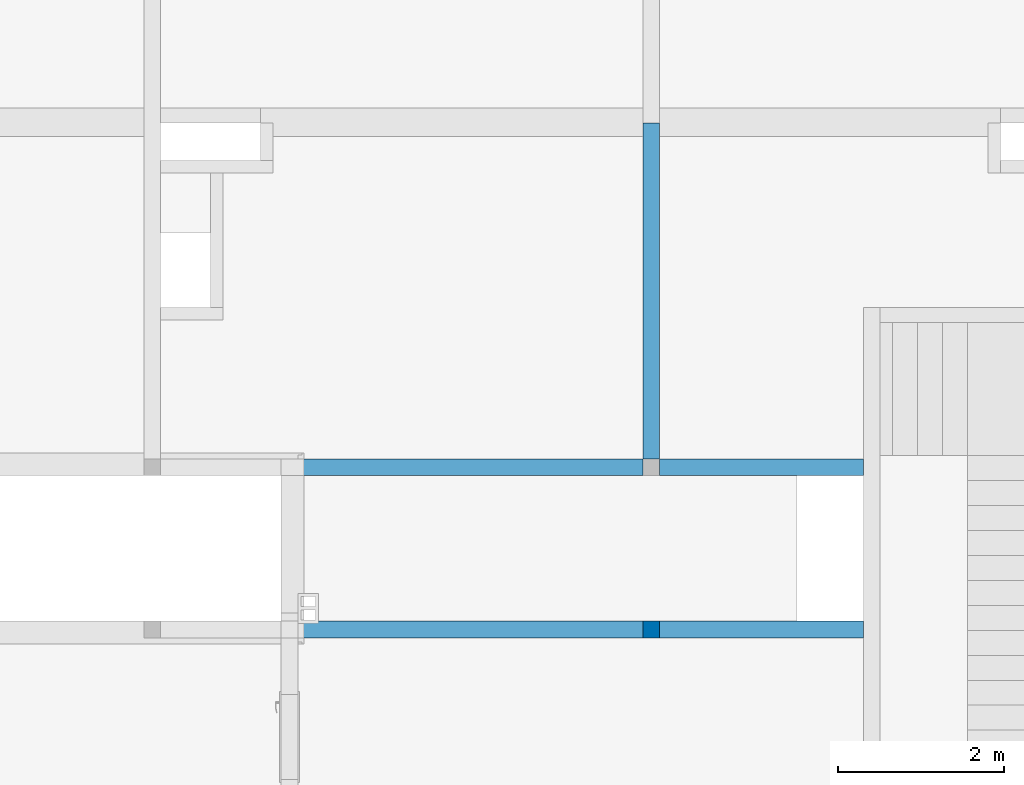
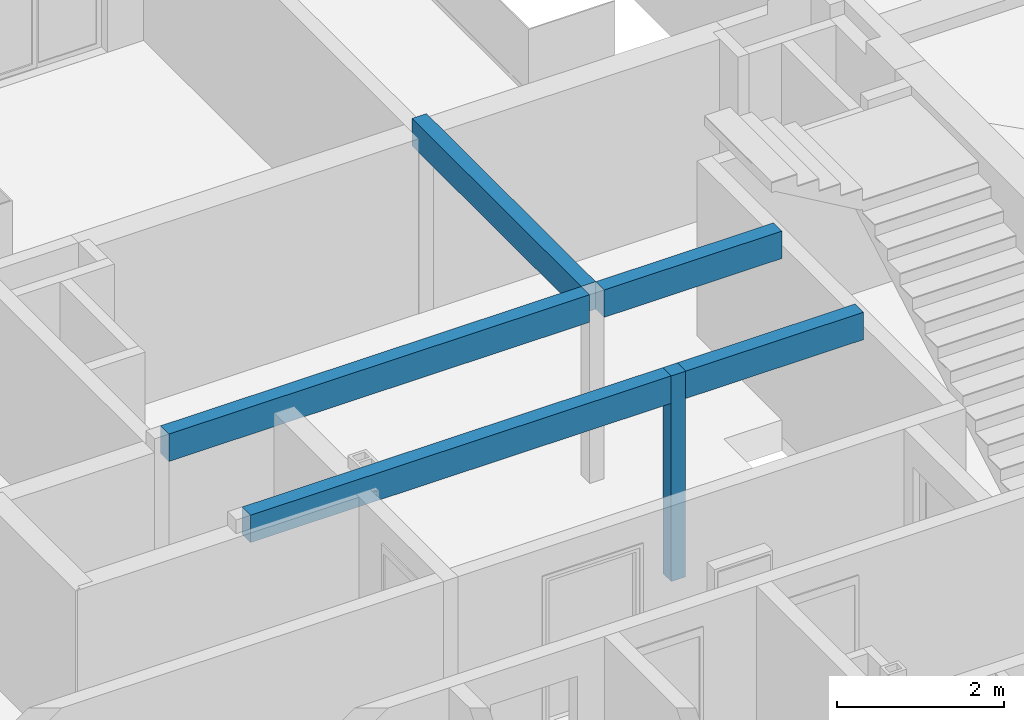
# One storey, part 1 of 30: 3 beams, 1 column.
"""IFC2X3 building model written with IfcOpenShell, lengths in millimetres."""

from ifc_helpers import new_model, entity, si_unit, converted_unit, derived_unit, money_unit, direction, frame, origin_with_axes, place, context, subcontext, project, spatial, faceted_brep, material, type_object, element, save


model = new_model("IFC2X3")

# Units and contexts
model_context = context("Model", 3, precision=0.01, world=origin_with_axes(), true_north=direction((0.34421633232, 0.938890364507)))
body_context = subcontext(model_context, "Body", "Model", "MODEL_VIEW")
ifc_project = project(units=[si_unit("LENGTHUNIT", "METRE", prefix="MILLI"), si_unit("AREAUNIT", "SQUARE_METRE"), si_unit("VOLUMEUNIT", "CUBIC_METRE"), converted_unit("PLANEANGLEUNIT", "DEGREE", entity("IfcPlaneAngleMeasure", 0.0174532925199), si_unit("PLANEANGLEUNIT", "RADIAN"), dimensions=[0, 0, 0, 0, 0, 0, 0]), si_unit("SOLIDANGLEUNIT", "STERADIAN"), money_unit("USD"), converted_unit("TIMEUNIT", "Year", entity("IfcTimeMeasure", 31556926.0), si_unit("TIMEUNIT", "SECOND"), dimensions=[0, 0, 1, 0, 0, 0, 0]), si_unit("MASSUNIT", "GRAM", prefix="KILO"), si_unit("THERMODYNAMICTEMPERATUREUNIT", "DEGREE_CELSIUS"), si_unit("LUMINOUSINTENSITYUNIT", "LUMEN"), si_unit("ENERGYUNIT", "JOULE", prefix="MEGA"), derived_unit("THERMALCONDUCTANCEUNIT", [(si_unit("POWERUNIT", "WATT"), 1), (si_unit("LENGTHUNIT", "METRE"), -1), (si_unit("THERMODYNAMICTEMPERATUREUNIT", "KELVIN"), -1)]), derived_unit("SPECIFICHEATCAPACITYUNIT", [(si_unit("ENERGYUNIT", "JOULE"), 1), (si_unit("MASSUNIT", "GRAM", prefix="KILO"), -1), (si_unit("THERMODYNAMICTEMPERATUREUNIT", "KELVIN"), -1)]), derived_unit("MASSDENSITYUNIT", [(si_unit("MASSUNIT", "GRAM", prefix="KILO"), 1), (si_unit("VOLUMEUNIT", "CUBIC_METRE"), -1)])], contexts=[model_context])

# Site, building, storey
site_placement = place(None, origin_with_axes())
site = spatial("IfcSite", under=ifc_project, at=site_placement, Name="USTRONIE MORSKIE", CompositionType="ELEMENT")
building_placement = place(site_placement, origin_with_axes())
building = spatial("IfcBuilding", under=site, at=building_placement, Name="Budynek", CompositionType="ELEMENT")
storey_placement = place(building_placement, frame((0.0, 0.0, 16000.0), z_axis=(0.0, 0.0, 1.0), x_axis=(1.0, 0.0, 0.0)))
storey = spatial("IfcBuildingStorey", under=building, at=storey_placement, Name="ANTRESOLA - KOND. TECHNICZNA", CompositionType="ELEMENT", Elevation=16000.0)

# Column
ifc_material_1 = material(Name="Beton konstrukcyjny B25")
column_type = type_object("IfcColumnType", Name="Beton konstrukcyjny B25 200 x 200", PredefinedType="NOTDEFINED")
column_placement = place(storey_placement, frame((390817.920919, 736851.199036, -160.0), z_axis=(0.0, 0.0, 1.0), x_axis=(1.0, 0.0, 0.0)))
element("IfcColumn", 1, at=column_placement, inside=storey, type_object=column_type, material=ifc_material_1, Name="S1", context=body_context, shape_type="Brep", body=[
    faceted_brep([(-100.0, -100.0, 3000.0), (-100.0, -100.0, 0.0), (100.0, -100.0, 0.0), (100.0, -100.0, 3000.0), (-100.0, 100.0, 3000.0), (-100.0, 100.0, 0.0), (100.0, 100.0, 0.0), (100.0, 100.0, 3000.0)], [[[0, 1, 2, 3]], [[4, 5, 1, 0]], [[2, 1, 5, 6]], [[3, 2, 6, 7]], [[4, 0, 3, 7]], [[7, 6, 5, 4]]]),
])

# Beams
ifc_material_2 = material(Name="Beton konstrukcyjny 01")
beam_type = type_object("IfcBeamType", Name="Beton konstrukcyjny 01 200 x 400", PredefinedType="NOTDEFINED")
for number, where, z_axis, x_axis, name in (
    (2, (393367.920919, 736851.199036, 2640.0), (0.0, 0.0, 1.0), (0.0, 1.0, 0.0), "B1"),
    (3, (393367.920919, 738801.199036, 2640.0), (0.0, 0.0, 1.0), (0.0, 1.0, 0.0), "B1"),
):
    element("IfcBeam", number, at=place(storey_placement, frame(where, z_axis=z_axis, x_axis=x_axis)), inside=storey, type_object=beam_type, material=ifc_material_2, Name=name, context=body_context, shape_type="Brep", body=[
        faceted_brep([(-100.0, 8450.0, 200.0), (-100.0, 2650.0, 200.0), (100.0, 2650.0, 200.0), (100.0, 8450.0, 200.0), (-100.0, 8450.0, -200.0), (-100.0, 2650.0, -200.0), (100.0, 2650.0, -200.0), (100.0, 8450.0, -200.0)], [[[0, 1, 2, 3]], [[4, 5, 1, 0]], [[5, 6, 2, 1]], [[3, 2, 6, 7]], [[3, 7, 4, 0]], [[7, 6, 5, 4]]]),
        faceted_brep([(100.0, 0.0, -200.0), (100.0, 2450.0, -200.0), (100.0, 2450.0, 200.0), (100.0, 0.0, 200.0), (-100.0, 0.0, -200.0), (-100.0, 2450.0, -200.0), (-100.0, 2450.0, 200.0), (-100.0, 0.0, 200.0)], [[[0, 1, 2, 3]], [[4, 5, 1, 0]], [[5, 6, 2, 1]], [[3, 2, 6, 7]], [[3, 7, 4, 0]], [[7, 6, 5, 4]]]),
    ])
beam_placement = place(storey_placement, frame((390817.920919, 738901.199036, 2640.0), z_axis=(0.0, 0.0, 1.0), x_axis=(1.0, 0.0, 0.0)))
element("IfcBeam", 4, at=beam_placement, inside=storey, type_object=beam_type, material=ifc_material_2, Name="B1", context=body_context, shape_type="Brep", body=[
    faceted_brep([(-100.0, 4039.99998521, 200.0), (-100.0, 0.0, 200.0), (100.0, 0.0, 200.0), (100.0, 4039.99998521, 200.0), (-100.0, 4039.99998521, -200.0), (-100.0, 0.0, -200.0), (100.0, 0.0, -200.0), (100.0, 4039.99998521, -200.0)], [[[0, 1, 2, 3]], [[4, 5, 1, 0]], [[1, 5, 6, 2]], [[3, 2, 6, 7]], [[7, 4, 0, 3]], [[7, 6, 5, 4]]]),
])

save(model, "model.ifc")
